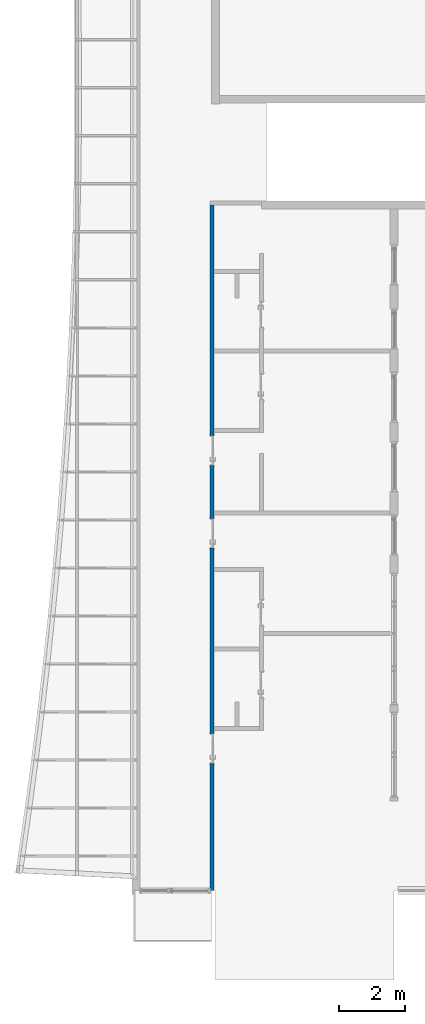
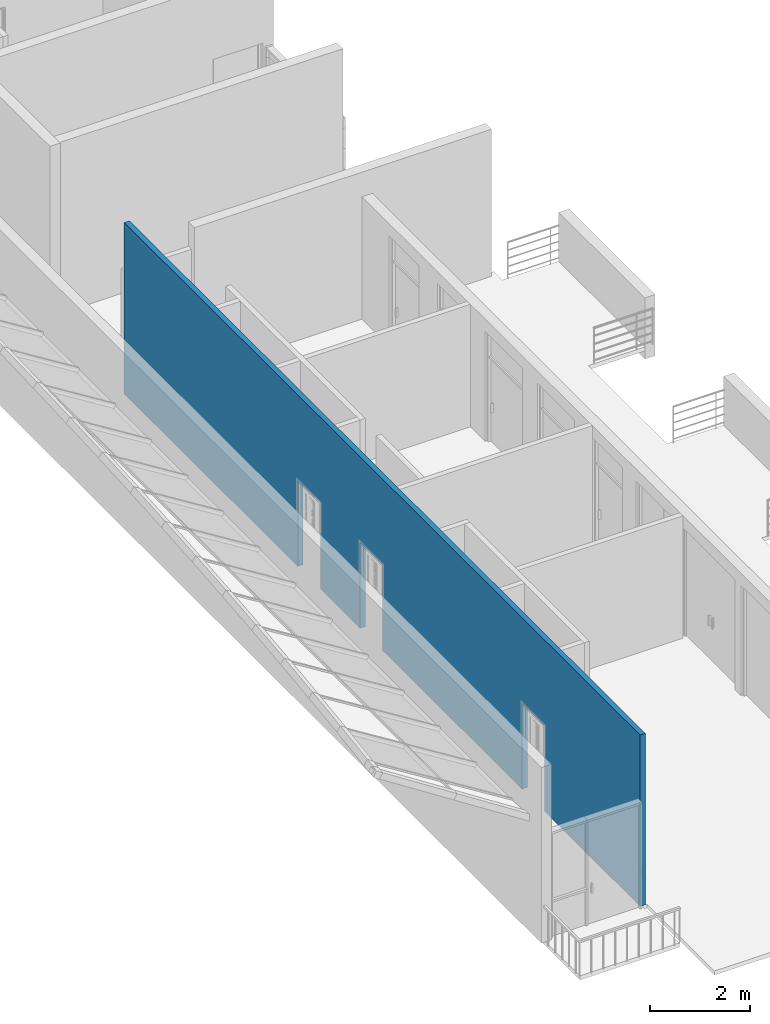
# One storey, part 19 of 33: 1 wall, 3 openings.
"""IFC2X3 building model written with IfcOpenShell, lengths in millimetres."""

from ifc_helpers import new_model, entity, si_unit, converted_unit, derived_unit, direction, frame, frame_2d, origin, place, context, subcontext, project, spatial, rectangle, extrude, material, layer, layer_set, layer_usage, type_object, element, save


model = new_model("IFC2X3")

# Units and contexts
model_context = context("Model", 3, precision=0.01, world=origin(), true_north=direction((6.12303176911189e-17, 1.0)))
body_context = subcontext(model_context, "Body", "Model", "MODEL_VIEW")
ifc_project = project(units=[si_unit("LENGTHUNIT", "METRE", prefix="MILLI"), si_unit("AREAUNIT", "SQUARE_METRE"), si_unit("VOLUMEUNIT", "CUBIC_METRE"), converted_unit("PLANEANGLEUNIT", "DEGREE", entity("IfcRatioMeasure", 0.0174532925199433), si_unit("PLANEANGLEUNIT", "RADIAN"), dimensions=[0, 0, 0, 0, 0, 0, 0]), si_unit("MASSUNIT", "GRAM", prefix="KILO"), derived_unit("MASSDENSITYUNIT", [(si_unit("MASSUNIT", "GRAM", prefix="KILO"), 1), (si_unit("LENGTHUNIT", "METRE"), -3)]), si_unit("TIMEUNIT", "SECOND"), si_unit("FREQUENCYUNIT", "HERTZ"), si_unit("THERMODYNAMICTEMPERATUREUNIT", "DEGREE_CELSIUS"), derived_unit("THERMALTRANSMITTANCEUNIT", [(si_unit("MASSUNIT", "GRAM", prefix="KILO"), 1), (si_unit("THERMODYNAMICTEMPERATUREUNIT", "KELVIN"), -1), (si_unit("TIMEUNIT", "SECOND"), -3)]), derived_unit("VOLUMETRICFLOWRATEUNIT", [(si_unit("LENGTHUNIT", "METRE"), 3), (si_unit("TIMEUNIT", "SECOND"), -1)]), si_unit("ELECTRICCURRENTUNIT", "AMPERE"), si_unit("ELECTRICVOLTAGEUNIT", "VOLT"), si_unit("POWERUNIT", "WATT"), si_unit("FORCEUNIT", "NEWTON", prefix="KILO"), si_unit("ILLUMINANCEUNIT", "LUX"), si_unit("LUMINOUSFLUXUNIT", "LUMEN"), si_unit("LUMINOUSINTENSITYUNIT", "CANDELA"), derived_unit("USERDEFINED", [(si_unit("MASSUNIT", "GRAM", prefix="KILO"), -1), (si_unit("LENGTHUNIT", "METRE"), -2), (si_unit("TIMEUNIT", "SECOND"), 3), (si_unit("LUMINOUSFLUXUNIT", "LUMEN"), 1)]), derived_unit("LINEARVELOCITYUNIT", [(si_unit("LENGTHUNIT", "METRE"), 1), (si_unit("TIMEUNIT", "SECOND"), -1)]), si_unit("PRESSUREUNIT", "PASCAL"), derived_unit("USERDEFINED", [(si_unit("LENGTHUNIT", "METRE"), -2), (si_unit("MASSUNIT", "GRAM", prefix="KILO"), 1), (si_unit("TIMEUNIT", "SECOND"), -2)])], contexts=[model_context])

# Site, building, storey
site_placement = place(None, origin())
site = spatial("IfcSite", under=ifc_project, at=site_placement, Name="表面", CompositionType="ELEMENT")
building_placement = place(site_placement, origin())
building = spatial("IfcBuilding", under=site, at=building_placement, CompositionType="ELEMENT")
storey_placement = place(building_placement, frame((0.0, 0.0, 6000.0)))
storey = spatial("IfcBuildingStorey", under=building, at=storey_placement, Name="3F", CompositionType="ELEMENT", Elevation=6000.00000000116)

# Wall, openings
ifc_material_1 = material(Name="白色涂料")
ifc_layer_1 = layer(ifc_material_1, 10.0)
ifc_material_2 = material(Name="默认墙")
ifc_layer_2 = layer(ifc_material_2, 100.0)
ifc_layer_3 = layer(ifc_material_1, 10.0)
ifc_layer_set = layer_set([ifc_layer_1, ifc_layer_2, ifc_layer_3], Name="基本墙:粉刷墙120")
ifc_layer_usage = layer_usage(ifc_layer_set, "AXIS2", "NEGATIVE", 60.0)
wall_type = type_object("IfcWallType", Name="基本墙:粉刷墙120", PredefinedType="STANDARD", material=ifc_layer_set)
wall_placement = place(storey_placement, frame((-12130.2499126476, -8707.84591297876, 0.0), z_axis=(0.0, 0.0, 1.0), x_axis=(0.0, -1.0, 0.0)))
wall = element("IfcWallStandardCase", 1, at=wall_placement, inside=storey, type_object=wall_type, material=ifc_layer_usage, Name="基本墙:粉刷墙120", ObjectType="基本墙:粉刷墙120", context=body_context, shape_type="SweptSolid", body=[
    extrude(rectangle(XDim=20709.0225136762, YDim=119.999999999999, at=frame_2d((10354.5112568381, 1.35003119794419e-13), x_axis=(-1.0, 0.0))), origin(), (0.0, 0.0, 1.0), 4200.0),
])
opening_1_placement = place(wall_placement, frame((6969.02251367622, -60.0, 1.15433635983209e-09)))
element("IfcOpeningElement", 2, at=opening_1_placement, cuts=wall, Name="装饰木门:M0921:1", ObjectType="Opening", context=body_context, shape_type="SweptSolid", body=[
    extrude(rectangle(XDim=2099.99999999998, YDim=900.0, at=frame_2d((1049.99999999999, 450.0), x_axis=(1.0, 0.0))), frame((0.0, 0.0, 0.0), z_axis=(0.0, 1.0, 0.0), x_axis=(0.0, 0.0, 1.0)), (0.0, 0.0, 1.0), 120.0),
])
opening_2_placement = place(wall_placement, frame((9469.02251367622, -60.0, 1.15433635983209e-09)))
element("IfcOpeningElement", 3, at=opening_2_placement, cuts=wall, Name="装饰木门:M0921:1", ObjectType="Opening", context=body_context, shape_type="SweptSolid", body=[
    extrude(rectangle(XDim=2099.99999999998, YDim=900.0, at=frame_2d((1049.99999999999, 450.0), x_axis=(1.0, 0.0))), frame((0.0, 0.0, 0.0), z_axis=(0.0, 1.0, 0.0), x_axis=(0.0, 0.0, 1.0)), (0.0, 0.0, 1.0), 120.0),
])
opening_3_placement = place(wall_placement, frame((15969.0225136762, -60.0, 1.15433635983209e-09)))
element("IfcOpeningElement", 4, at=opening_3_placement, cuts=wall, Name="装饰木门:M0921:1", ObjectType="Opening", context=body_context, shape_type="SweptSolid", body=[
    extrude(rectangle(XDim=2099.99999999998, YDim=900.0, at=frame_2d((1049.99999999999, 450.0), x_axis=(1.0, 0.0))), frame((0.0, 0.0, 0.0), z_axis=(0.0, 1.0, 0.0), x_axis=(0.0, 0.0, 1.0)), (0.0, 0.0, 1.0), 120.0),
])

save(model, "model.ifc")
